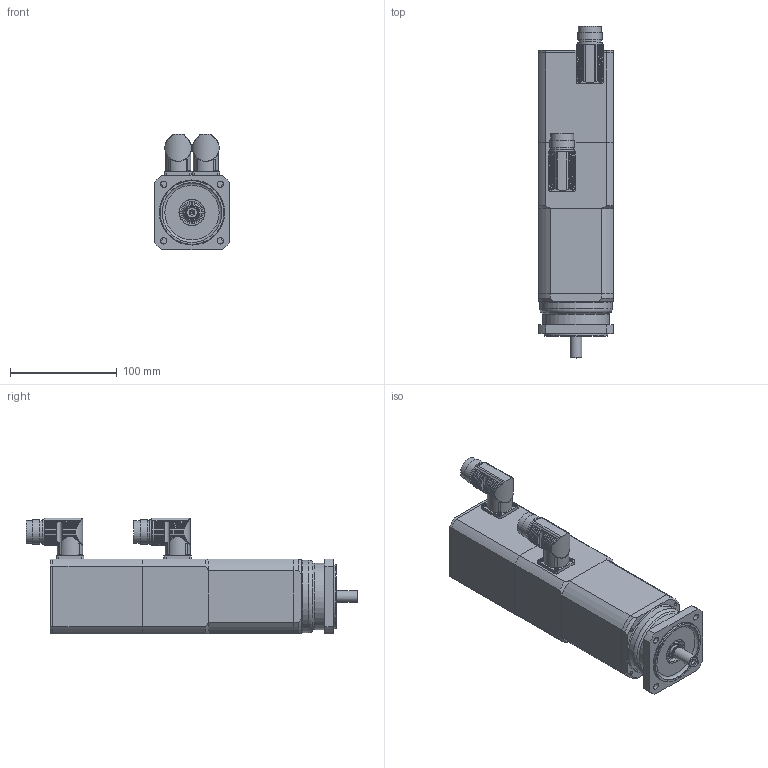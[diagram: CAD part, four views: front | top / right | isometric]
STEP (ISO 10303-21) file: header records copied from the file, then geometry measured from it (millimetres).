
FILE_DESCRIPTION(/* description */ (''),/* implementation_level */ '2;1');
FILE_NAME(/* name */ 'KSY 268 D-MD-Rx',/* time_stamp */ '2006-12-14T16:15:21+01:00',/* author */ (''),/* organization */ (''),/* preprocessor_version */ 'ST-DEVELOPER v8',/* originating_system */ 'UNIGRAPHICS SOLUTIONS - UNIGRAPHICS 18.0',/* authorisation */ '');
FILE_SCHEMA (('AUTOMOTIVE_DESIGN { 1 2 10303 214 0 1 1 1 }'));
Length unit declared in the file: millimetre
Products named in the file (12): Gehaeuse_SY2_80_0; 064215_0; 112058_0; 014258_0; Rotor_SY2_0; iso2009-m3x8_A; 064214_2; din920-m2.5x6_A; 014250_0; DIN3760_org_A12x24x7_0; 112050Z_1; KSY264D-MD-RD_0
Assembly tree (21 placements, depth 2):
  KSY264D-MD-RD_0
    112050Z_1
    DIN3760_org_A12x24x7_0
    014250_0
    din920-m2.5x6_A  x8
    064214_2
    iso2009-m3x8_A  x4
    Rotor_SY2_0
    014258_0
    112058_0
    064215_0
    Gehaeuse_SY2_80_0
Bounding box: 70 x 311.15 x 108.49 mm (x, y, z)
Volume: 510586.7 mm3; surface area: 212847.6 mm2
Topology: 21 solids, 21 shells, 873 faces, 2308 edges, 1508 vertices
Faces by surface type: cylinder 526, plane 214, cone 83, torus 25, sphere 25
Full cylindrical faces by diameter (mm): 1 x21, 2 x4, 2.135 x8, 2.459 x8, 2.5 x9, 2.7 x8, 3 x4, 3.432 x6, 3.5 x16, 4.5 x6, 6 x12, 8 x6, 8.5 x4, 10.6 x1, 11 x2, 12 x2, 12.3 x1, 12.5 x2, 14 x1, 15.02 x1, 18 x4, 20 x4, 21 x3, 21.5 x2, 23 x5, 24 x2, 28 x1, 32 x1, 35 x1, 54 x1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
Entity records: 23144 total; most frequent: CARTESIAN_POINT 5211, DIRECTION 3640, ORIENTED_EDGE 3250, EDGE_CURVE 1625, AXIS2_PLACEMENT_3D 1564, VERTEX_POINT 1207, EDGE_LOOP 1116, CIRCLE 796
